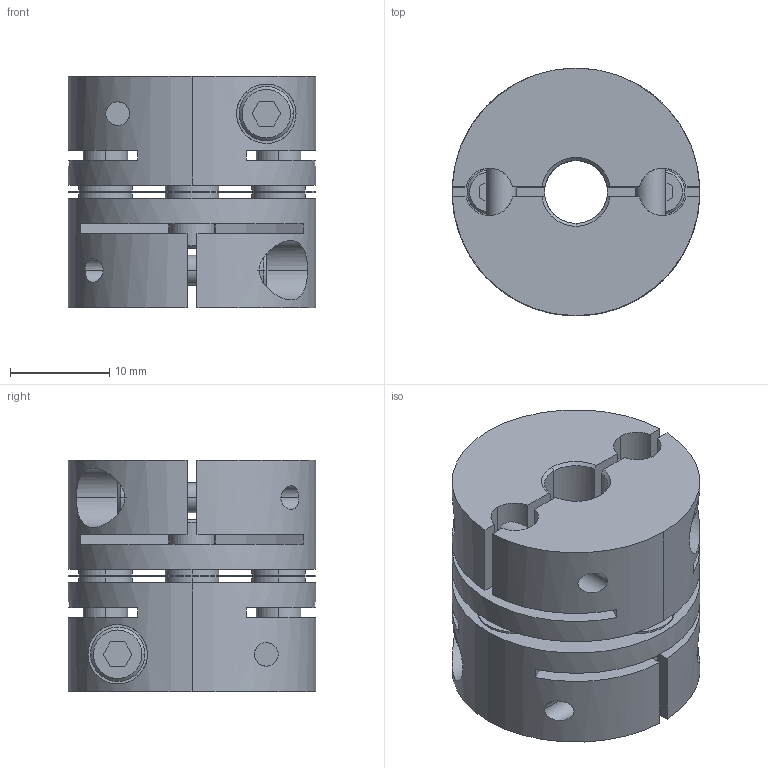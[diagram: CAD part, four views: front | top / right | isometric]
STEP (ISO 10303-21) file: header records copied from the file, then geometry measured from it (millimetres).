
FILE_DESCRIPTION((''),'2;1');
FILE_NAME('LAS-25C-6.35×6.35.stp','2011-08-10T10:21:31',(''),(''),'AutoCAD STEP 2000i','AutoCAD 2000i',', , ');
FILE_SCHEMA(('CONFIG_CONTROL_DESIGN'));
Length unit declared in the file: millimetre
Products named in the file (5): LAS-25C-6×6; 忣兜1; LA-2502-D06-1; LA-2502-D06; LAS25-ITA
Assembly tree (4 placements, depth 2):
  LAS-25C-6×6
    忣兜1
    LA-2502-D06-1
    LA-2502-D06
    LAS25-ITA
Bounding box: 25 x 25 x 23.4 mm (x, y, z)
Volume: 8798.1 mm3; surface area: 6926.8 mm2
Topology: 1 solids, 1 shells, 244 faces, 648 edges, 424 vertices
Faces by surface type: plane 112, cylinder 104, cone 28
Entity records: 8499 total; most frequent: CARTESIAN_POINT 2121, DIRECTION 1326, ORIENTED_EDGE 1296, EDGE_CURVE 648, AXIS2_PLACEMENT_3D 485, VERTEX_POINT 424, VECTOR 356, LINE 356
